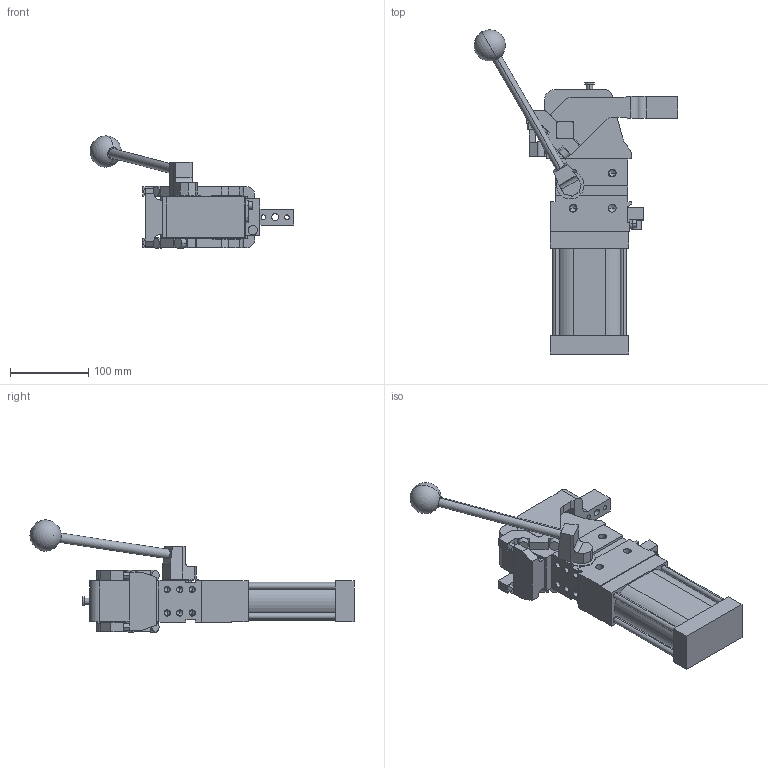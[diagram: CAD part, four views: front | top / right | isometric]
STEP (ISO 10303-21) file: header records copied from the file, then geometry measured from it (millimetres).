
FILE_DESCRIPTION (( 'STEP AP214' ), '1' );
FILE_NAME ('cplm63latv1csi1g_16.STEP', '2023-01-26T14:49:03', ( '' ), ( '' ), 'SwSTEP 2.0', 'SolidWorks 2022', '' );
FILE_SCHEMA (( 'AUTOMOTIVE_DESIGN' ));
Length unit declared in the file: millimetre
Products named in the file (5): meccanica_cplm_63_tassello_esterno; leva_v1cs_cpl63t; comando_manuale_cplm_63; cplm63latv1csi1g_16; blocchetto_VEP_0
Assembly tree (4 placements, depth 2):
  cplm63latv1csi1g_16
    meccanica_cplm_63_tassello_esterno
    blocchetto_VEP_0
    leva_v1cs_cpl63t
    comando_manuale_cplm_63
Bounding box: 260.57 x 414.56 x 143.5 mm (x, y, z)
Volume: 1901005.5 mm3; surface area: 215407.5 mm2
Topology: 4 solids, 4 shells, 467 faces, 1233 edges, 769 vertices
Faces by surface type: plane 248, cylinder 167, cone 50, sphere 2
Entity records: 15712 total; most frequent: CARTESIAN_POINT 2506, DIRECTION 2498, ORIENTED_EDGE 2364, EDGE_CURVE 1182, AXIS2_PLACEMENT_3D 848, LINE 802, VECTOR 802, VERTEX_POINT 766
